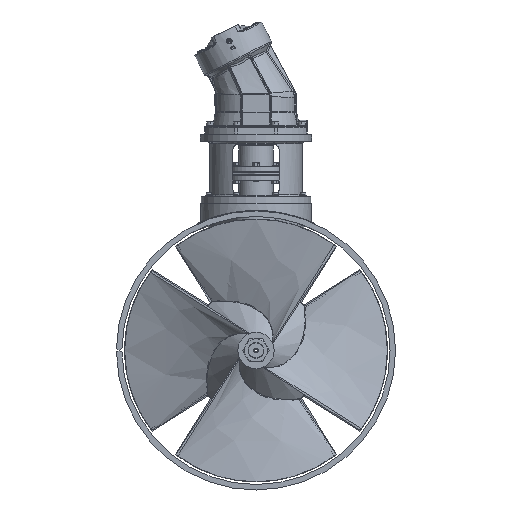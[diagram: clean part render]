
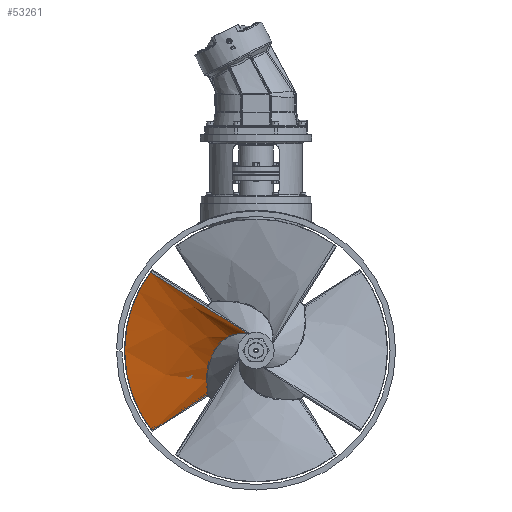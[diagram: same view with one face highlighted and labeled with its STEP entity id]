
A CAD part, left-side view. The second image highlights one B-rep face of the part: STEP entity #53261.
In plain terms, the highlighted free-form (B-spline) face has degree [3, 3] with [4, 4] control points.
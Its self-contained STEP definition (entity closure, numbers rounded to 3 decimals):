
#30=B_SPLINE_SURFACE_WITH_KNOTS('',3,3,((#108655,#108656,#108657,#108658),
(#108659,#108660,#108661,#108662),(#108663,#108664,#108665,#108666),(#108667,
#108668,#108669,#108670)),.UNSPECIFIED.,.F.,.F.,.F.,(4,4),(4,4),(0.,1.),
(0.059,1.),.UNSPECIFIED.);
#3202=B_SPLINE_CURVE_WITH_KNOTS('',3,(#108629,#108630,#108631,#108632,#108633,
#108634,#108635,#108636,#108637,#108638),.UNSPECIFIED.,.F.,.F.,(4,2,2,2,
4),(-41.046,-40.188,-21.44,-11.218,
0.),.UNSPECIFIED.);
#3203=B_SPLINE_CURVE_WITH_KNOTS('',3,(#108640,#108641,#108642,#108643,#108644,
#108645,#108646,#108647),.UNSPECIFIED.,.F.,.F.,(4,2,2,4),(-80.897,
-70.569,-58.131,-41.046),.UNSPECIFIED.);
#3204=B_SPLINE_CURVE_WITH_KNOTS('',3,(#108673,#108674,#108675,#108676,#108677,
#108678,#108679,#108680,#108681,#108682,#108683,#108684,#108685,#108686,
#108687,#108688),.UNSPECIFIED.,.F.,.F.,(4,2,2,2,2,2,2,4),(-45.027,
-37.738,-30.086,-25.014,-17.022,
-8.911,-3.543,0.),.UNSPECIFIED.);
#5067=LINE('',#108651,#7463);
#5069=LINE('',#108672,#7465);
#7463=VECTOR('',#71391,706.702);
#7465=VECTOR('',#71395,712.659);
#11481=FACE_OUTER_BOUND('',#14627,.T.);
#14627=EDGE_LOOP('',(#43079,#43080,#43081,#43082,#43083));
#23165=VERTEX_POINT('',#108626);
#23166=VERTEX_POINT('',#108628);
#23167=VERTEX_POINT('',#108639);
#23168=VERTEX_POINT('',#108650);
#23170=VERTEX_POINT('',#108671);
#30152=EDGE_CURVE('',#23166,#23165,#3202,.T.);
#30153=EDGE_CURVE('',#23167,#23166,#3203,.T.);
#30155=EDGE_CURVE('',#23168,#23167,#5067,.T.);
#30158=EDGE_CURVE('',#23170,#23165,#5069,.T.);
#30159=EDGE_CURVE('',#23170,#23168,#3204,.T.);
#43079=ORIENTED_EDGE('',*,*,#30153,.T.);
#43080=ORIENTED_EDGE('',*,*,#30152,.T.);
#43081=ORIENTED_EDGE('',*,*,#30158,.F.);
#43082=ORIENTED_EDGE('',*,*,#30159,.T.);
#43083=ORIENTED_EDGE('',*,*,#30155,.T.);
#53261=ADVANCED_FACE('',(#11481),#30,.F.);
#71391=DIRECTION('',(0.,0.845,0.534));
#71395=DIRECTION('',(0.,0.838,-0.545));
#108626=CARTESIAN_POINT('',(-361.248,474.963,-363.002));
#108628=CARTESIAN_POINT('',(-480.569,599.105,1.605));
#108629=CARTESIAN_POINT('Ctrl Pts',(-480.569,599.105,1.605));
#108630=CARTESIAN_POINT('Ctrl Pts',(-479.828,599.105,-1.161));
#108631=CARTESIAN_POINT('Ctrl Pts',(-479.086,599.085,
-3.928));
#108632=CARTESIAN_POINT('Ctrl Pts',(-462.144,598.207,
-67.144));
#108633=CARTESIAN_POINT('Ctrl Pts',(-446.055,588.196,
-126.95));
#108634=CARTESIAN_POINT('Ctrl Pts',(-419.063,559.351,
-215.185));
#108635=CARTESIAN_POINT('Ctrl Pts',(-409.194,546.676,-245.286));
#108636=CARTESIAN_POINT('Ctrl Pts',(-387.093,515.29,
-305.642));
#108637=CARTESIAN_POINT('Ctrl Pts',(-374.816,496.227,
-335.396));
#108638=CARTESIAN_POINT('Ctrl Pts',(-361.248,474.963,
-363.002));
#108639=CARTESIAN_POINT('',(-595.748,481.694,357.302));
#108640=CARTESIAN_POINT('Ctrl Pts',(-595.748,481.694,357.302));
#108641=CARTESIAN_POINT('Ctrl Pts',(-583.47,500.845,
331.454));
#108642=CARTESIAN_POINT('Ctrl Pts',(-572.238,518.077,
303.824));
#108643=CARTESIAN_POINT('Ctrl Pts',(-548.816,551.096,
239.562));
#108644=CARTESIAN_POINT('Ctrl Pts',(-537.004,565.721,
202.534));
#108645=CARTESIAN_POINT('Ctrl Pts',(-509.966,591.493,
111.354));
#108646=CARTESIAN_POINT('Ctrl Pts',(-495.321,599.105,56.66));
#108647=CARTESIAN_POINT('Ctrl Pts',(-480.569,599.105,1.605));
#108650=CARTESIAN_POINT('',(-595.748,36.846,76.332));
#108651=CARTESIAN_POINT('',(-595.748,1.605,54.072));
#108655=CARTESIAN_POINT('Ctrl Pts',(-595.748,36.846,
76.332));
#108656=CARTESIAN_POINT('Ctrl Pts',(-595.748,224.266,
194.708));
#108657=CARTESIAN_POINT('Ctrl Pts',(-595.748,411.685,
313.084));
#108658=CARTESIAN_POINT('Ctrl Pts',(-595.748,599.105,431.46));
#108659=CARTESIAN_POINT('Ctrl Pts',(-517.582,36.846,
24.825));
#108660=CARTESIAN_POINT('Ctrl Pts',(-517.582,224.266,
63.13));
#108661=CARTESIAN_POINT('Ctrl Pts',(-517.582,411.685,
101.434));
#108662=CARTESIAN_POINT('Ctrl Pts',(-517.582,599.105,139.738));
#108663=CARTESIAN_POINT('Ctrl Pts',(-439.415,36.846,
-26.681));
#108664=CARTESIAN_POINT('Ctrl Pts',(-439.415,224.266,
-68.449));
#108665=CARTESIAN_POINT('Ctrl Pts',(-439.415,411.685,
-110.216));
#108666=CARTESIAN_POINT('Ctrl Pts',(-439.415,599.105,-151.984));
#108667=CARTESIAN_POINT('Ctrl Pts',(-361.248,36.846,
-78.187));
#108668=CARTESIAN_POINT('Ctrl Pts',(-361.248,224.266,
-200.027));
#108669=CARTESIAN_POINT('Ctrl Pts',(-361.248,411.685,
-321.866));
#108670=CARTESIAN_POINT('Ctrl Pts',(-361.248,599.105,
-443.706));
#108671=CARTESIAN_POINT('',(-361.248,221.813,-198.432));
#108672=CARTESIAN_POINT('',(-361.248,1.605,-55.277));
#108673=CARTESIAN_POINT('Ctrl Pts',(-361.248,221.813,-198.432));
#108674=CARTESIAN_POINT('Ctrl Pts',(-374.569,224.149,
-177.707));
#108675=CARTESIAN_POINT('Ctrl Pts',(-387.361,225.472,-156.656));
#108676=CARTESIAN_POINT('Ctrl Pts',(-412.975,224.661,
-113.07));
#108677=CARTESIAN_POINT('Ctrl Pts',(-425.648,222.349,-90.705));
#108678=CARTESIAN_POINT('Ctrl Pts',(-446.654,214.001,
-54.229));
#108679=CARTESIAN_POINT('Ctrl Pts',(-454.959,209.501,
-39.979));
#108680=CARTESIAN_POINT('Ctrl Pts',(-476.532,194.415,-4.707));
#108681=CARTESIAN_POINT('Ctrl Pts',(-489.657,181.967,
15.123));
#108682=CARTESIAN_POINT('Ctrl Pts',(-517.287,150.034,
48.805));
#108683=CARTESIAN_POINT('Ctrl Pts',(-531.379,130.974,
61.976));
#108684=CARTESIAN_POINT('Ctrl Pts',(-556.078,95.72,75.366));
#108685=CARTESIAN_POINT('Ctrl Pts',(-566.045,81.068,
78.326));
#108686=CARTESIAN_POINT('Ctrl Pts',(-582.712,56.406,
79.057));
#108687=CARTESIAN_POINT('Ctrl Pts',(-589.33,46.575,78.247));
#108688=CARTESIAN_POINT('Ctrl Pts',(-595.748,36.846,
76.332));
